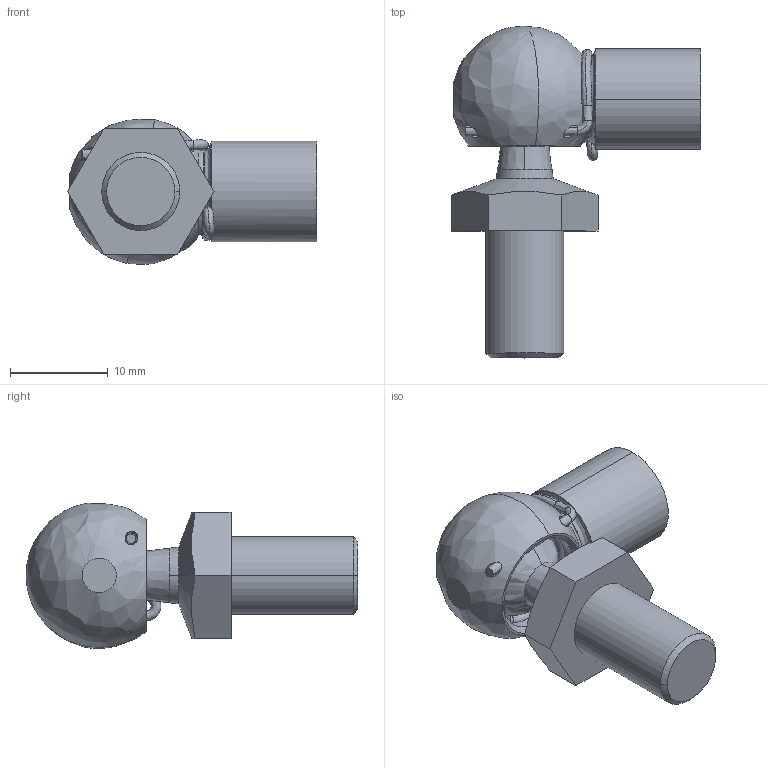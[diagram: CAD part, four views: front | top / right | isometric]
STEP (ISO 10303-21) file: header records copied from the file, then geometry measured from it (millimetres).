
FILE_DESCRIPTION (( 'STEP AP214' ), '1' );
FILE_NAME ('13CS10M6M8L18.STEP', '2017-11-19T10:38:00', ( '' ), ( '' ), 'SwSTEP 2.0', 'SolidWorks 2016', '' );
FILE_SCHEMA (( 'AUTOMOTIVE_DESIGN' ));
Length unit declared in the file: millimetre
Products named in the file (1): 13CS10M6M8L18
Bounding box: 25.51 x 34 x 14.87 mm (x, y, z)
Volume: 3494.2 mm3; surface area: 2771.5 mm2
Topology: 1 solids, 1 shells, 90 faces, 280 edges, 180 vertices
Faces by surface type: bspline 35, plane 20, cylinder 18, cone 17
Entity records: 9902 total; most frequent: CARTESIAN_POINT 7701, ORIENTED_EDGE 536, DIRECTION 363, EDGE_CURVE 268, VERTEX_POINT 180, AXIS2_PLACEMENT_3D 154, EDGE_LOOP 102, B_SPLINE_CURVE_WITH_KNOTS 101
